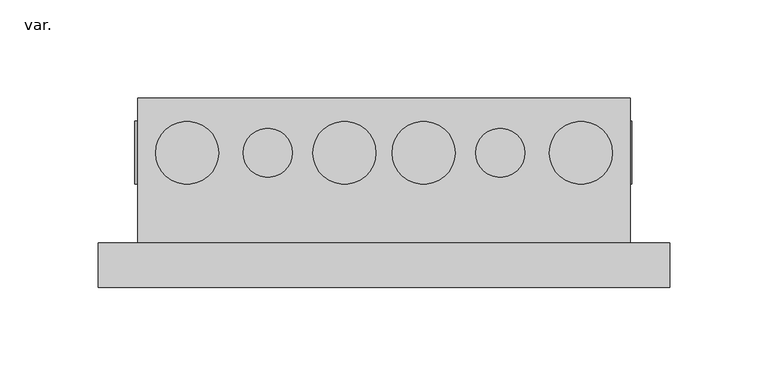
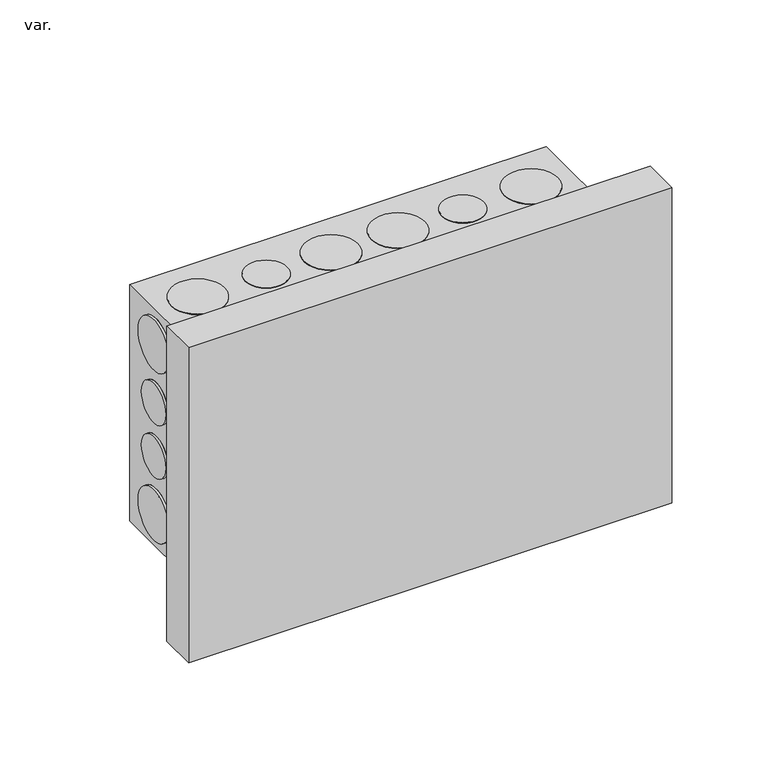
"""IFC4 building model written with IfcOpenShell, lengths in millimetres: pipe fitting geometry, AmancoWavin_ConexõesdoConduite_LinhaEletricaCorrugadoCuadroDistribucao8D : var.."""

from ifc_helpers import new_model, si_unit, frame, origin, place, context, project, spatial, polyline, circle_curve, source, transform, mapped, element, save
from ifc_brep_helpers import plane_surface, cylinder_surface, revolved_surface, advanced_brep


def var_e7d891e8(model_context):
    return source(origin(), model_context, "Body", "AdvancedBrep", [
        advanced_brep(
        [(145.0, 22.5, 100.0), (145.0, 22.5, -100.0), (-145.0, 22.5, -100.0), (-145.0, 22.5, 100.0), (125.0, 22.5, -75.0), (125.0, 22.5, 75.0), (-125.0, 22.5, 75.0), (-125.0, 22.5, -75.0), (145.0, 0.0, 100.0), (145.0, 0.0, -100.0), (-145.0, 0.0, -100.0), (-145.0, 0.0, 100.0), (125.0, 96.0, 75.0), (125.0, 96.0, -75.0), (-125.0, 96.0, -75.0), (-125.0, 96.0, 75.0), (-90.5, 96.0, 53.0), (-115.5, 96.0, 53.0), (-45.0, 96.0, 54.6498552), (-77.0, 96.0, 54.6498552), (90.5, 96.0, 53.0), (115.5, 96.0, 53.0), (45.0, 96.0, 54.6498552), (77.0, 96.0, 54.6498552), (-90.5, 96.0, -53.0), (-115.5, 96.0, -53.0), (-45.0, 96.0, -54.6498552), (-77.0, 96.0, -54.6498552), (90.5, 96.0, -53.0), (115.5, 96.0, -53.0), (45.0, 96.0, -54.6498552), (77.0, 96.0, -54.6498552), (125.0, 56.0, 17.0), (125.0, 81.0, 17.0), (125.0, 52.5, 54.0), (125.0, 84.5, 54.0), (125.0, 56.0, -17.0), (125.0, 81.0, -17.0), (125.0, 52.5, -54.0), (125.0, 84.5, -54.0), (-116.0, 68.3, -75.0), (-84.0, 68.3, -75.0), (-71.5, 68.3, -75.0), (-46.5, 68.3, -75.0), (-36.1, 68.3, -75.0), (-4.1, 68.3, -75.0), (116.0, 68.3, -75.0), (84.0, 68.3, -75.0), (71.5, 68.3, -75.0), (46.5, 68.3, -75.0), (36.1, 68.3, -75.0), (4.1, 68.3, -75.0), (-125.0, 81.0, 17.0), (-125.0, 56.0, 17.0), (-125.0, 84.5, 54.0), (-125.0, 52.5, 54.0), (-125.0, 81.0, -17.0), (-125.0, 56.0, -17.0), (-125.0, 84.5, -54.0), (-125.0, 52.5, -54.0), (-84.0, 68.3, 75.0), (-116.0, 68.3, 75.0), (-46.5, 68.3, 75.0), (-71.5, 68.3, 75.0), (-4.1, 68.3, 75.0), (-36.1, 68.3, 75.0), (84.0, 68.3, 75.0), (116.0, 68.3, 75.0), (46.5, 68.3, 75.0), (71.5, 68.3, 75.0), (4.1, 68.3, 75.0), (36.1, 68.3, 75.0), (-115.5, 95.0, 53.0), (-90.5, 95.0, 53.0), (-77.0, 95.0, 54.6498552), (-45.0, 95.0, 54.6498552), (115.5, 95.0, 53.0), (90.5, 95.0, 53.0), (77.0, 95.0, 54.6498552), (45.0, 95.0, 54.6498552), (-115.5, 95.0, -53.0), (-90.5, 95.0, -53.0), (-77.0, 95.0, -54.6498552), (-45.0, 95.0, -54.6498552), (115.5, 95.0, -53.0), (90.5, 95.0, -53.0), (77.0, 95.0, -54.6498552), (45.0, 95.0, -54.6498552), (-126.4779036, 56.0, 17.0), (-126.4779036, 81.0, 17.0), (-126.4779036, 52.5, 54.0), (-126.4779036, 84.5, 54.0), (-126.4779036, 56.0, -17.0), (-126.4779036, 81.0, -17.0), (-126.4779036, 52.5, -54.0), (-126.4779036, 84.5, -54.0), (125.9225103, 56.0, 17.0), (125.9225103, 81.0, 17.0), (125.9225103, 52.5, 54.0), (125.9225103, 84.5, 54.0), (125.9225103, 56.0, -17.0), (125.9225103, 81.0, -17.0), (125.9225103, 52.5, -54.0), (125.9225103, 84.5, -54.0), (-116.0, 68.3, 75.3532589), (-84.0, 68.3, 75.3532589), (-71.5, 68.3, 75.3532589), (-46.5, 68.3, 75.3532589), (-36.1, 68.3, 75.3532589), (-4.1, 68.3, 75.3532589), (116.0, 68.3, 75.3532589), (84.0, 68.3, 75.3532589), (71.5, 68.3, 75.3532589), (46.5, 68.3, 75.3532589), (36.1, 68.3, 75.3532589), (4.1, 68.3, 75.3532589), (-116.0, 68.3, -75.2845122), (-84.0, 68.3, -75.2845122), (-71.5, 68.3, -75.2845122), (-46.5, 68.3, -75.2845122), (-36.1, 68.3, -75.2845122), (-4.1, 68.3, -75.2845122), (116.0, 68.3, -75.2845122), (84.0, 68.3, -75.2845122), (71.5, 68.3, -75.2845122), (46.5, 68.3, -75.2845122), (36.1, 68.3, -75.2845122), (4.1, 68.3, -75.2845122)],
        [
            (0, 1),
            (1, 2),
            (2, 3),
            (3, 0),
            (4, 5),
            (5, 6),
            (6, 7),
            (7, 4),
            (0, 8),
            (8, 9),
            (9, 1),
            (9, 10),
            (10, 2),
            (10, 11),
            (11, 3),
            (11, 8),
            (12, 13),
            (13, 14),
            (14, 15),
            (15, 12),
            (16, 17, circle_curve(frame((-103.0, 96.0, 53.0), z_axis=(0.0, -1.0, 0.0), x_axis=(1.0, 0.0, 0.0)), 12.5)),
            (17, 16, circle_curve(frame((-103.0, 96.0, 53.0), z_axis=(0.0, -1.0, 0.0), x_axis=(1.0, 0.0, 0.0)), 12.5)),
            (18, 19, circle_curve(frame((-61.0, 96.0, 54.6498552), z_axis=(0.0, -1.0, 0.0), x_axis=(1.0, 0.0, 0.0)), 16.0)),
            (19, 18, circle_curve(frame((-61.0, 96.0, 54.6498552), z_axis=(0.0, -1.0, 0.0), x_axis=(1.0, 0.0, 0.0)), 16.0)),
            (20, 21, circle_curve(frame((103.0, 96.0, 53.0), z_axis=(0.0, -1.0, 0.0), x_axis=(-1.0, 0.0, 0.0)), 12.5)),
            (21, 20, circle_curve(frame((103.0, 96.0, 53.0), z_axis=(0.0, -1.0, 0.0), x_axis=(-1.0, 0.0, 0.0)), 12.5)),
            (22, 23, circle_curve(frame((61.0, 96.0, 54.6498552), z_axis=(0.0, -1.0, 0.0), x_axis=(-1.0, 0.0, 0.0)), 16.0)),
            (23, 22, circle_curve(frame((61.0, 96.0, 54.6498552), z_axis=(0.0, -1.0, 0.0), x_axis=(-1.0, 0.0, 0.0)), 16.0)),
            (24, 25, circle_curve(frame((-103.0, 96.0, -53.0), z_axis=(0.0, -1.0, 0.0), x_axis=(1.0, 0.0, 0.0)), 12.5)),
            (25, 24, circle_curve(frame((-103.0, 96.0, -53.0), z_axis=(0.0, -1.0, 0.0), x_axis=(1.0, 0.0, 0.0)), 12.5)),
            (26, 27, circle_curve(frame((-61.0, 96.0, -54.6498552), z_axis=(0.0, -1.0, 0.0), x_axis=(1.0, 0.0, 0.0)), 16.0)),
            (27, 26, circle_curve(frame((-61.0, 96.0, -54.6498552), z_axis=(0.0, -1.0, 0.0), x_axis=(1.0, 0.0, 0.0)), 16.0)),
            (28, 29, circle_curve(frame((103.0, 96.0, -53.0), z_axis=(0.0, -1.0, 0.0), x_axis=(-1.0, 0.0, 0.0)), 12.5)),
            (29, 28, circle_curve(frame((103.0, 96.0, -53.0), z_axis=(0.0, -1.0, 0.0), x_axis=(-1.0, 0.0, 0.0)), 12.5)),
            (30, 31, circle_curve(frame((61.0, 96.0, -54.6498552), z_axis=(0.0, -1.0, 0.0), x_axis=(-1.0, 0.0, 0.0)), 16.0)),
            (31, 30, circle_curve(frame((61.0, 96.0, -54.6498552), z_axis=(0.0, -1.0, 0.0), x_axis=(-1.0, 0.0, 0.0)), 16.0)),
            (12, 5),
            (4, 13),
            (32, 33, circle_curve(frame((125.0, 68.5, 17.0), z_axis=(-1.0, 0.0, 0.0), x_axis=(0.0, 1.0, 0.0)), 12.5)),
            (33, 32, circle_curve(frame((125.0, 68.5, 17.0), z_axis=(-1.0, 0.0, 0.0), x_axis=(0.0, 1.0, 0.0)), 12.5)),
            (34, 35, circle_curve(frame((125.0, 68.5, 54.0), z_axis=(-1.0, 0.0, 0.0), x_axis=(0.0, 1.0, 0.0)), 16.0)),
            (35, 34, circle_curve(frame((125.0, 68.5, 54.0), z_axis=(-1.0, 0.0, 0.0), x_axis=(0.0, 1.0, 0.0)), 16.0)),
            (36, 37, circle_curve(frame((125.0, 68.5, -17.0), z_axis=(-1.0, 0.0, 0.0), x_axis=(0.0, 1.0, 0.0)), 12.5)),
            (37, 36, circle_curve(frame((125.0, 68.5, -17.0), z_axis=(-1.0, 0.0, 0.0), x_axis=(0.0, 1.0, 0.0)), 12.5)),
            (38, 39, circle_curve(frame((125.0, 68.5, -54.0), z_axis=(-1.0, 0.0, 0.0), x_axis=(0.0, 1.0, 0.0)), 16.0)),
            (39, 38, circle_curve(frame((125.0, 68.5, -54.0), z_axis=(-1.0, 0.0, 0.0), x_axis=(0.0, 1.0, 0.0)), 16.0)),
            (7, 14),
            (40, 41, circle_curve(frame((-100.0, 68.3, -75.0), z_axis=(0.0, 0.0, 1.0), x_axis=(1.0, 0.0, 0.0)), 16.0)),
            (41, 40, circle_curve(frame((-100.0, 68.3, -75.0), z_axis=(0.0, 0.0, 1.0), x_axis=(1.0, 0.0, 0.0)), 16.0)),
            (42, 43, circle_curve(frame((-59.0, 68.3, -75.0), z_axis=(0.0, 0.0, 1.0), x_axis=(1.0, 0.0, 0.0)), 12.5)),
            (43, 42, circle_curve(frame((-59.0, 68.3, -75.0), z_axis=(0.0, 0.0, 1.0), x_axis=(1.0, 0.0, 0.0)), 12.5)),
            (44, 45, circle_curve(frame((-20.1, 68.3, -75.0), z_axis=(0.0, 0.0, 1.0), x_axis=(1.0, 0.0, 0.0)), 16.0)),
            (45, 44, circle_curve(frame((-20.1, 68.3, -75.0), z_axis=(0.0, 0.0, 1.0), x_axis=(1.0, 0.0, 0.0)), 16.0)),
            (46, 47, circle_curve(frame((100.0, 68.3, -75.0), z_axis=(0.0, 0.0, 1.0), x_axis=(-1.0, 0.0, 0.0)), 16.0)),
            (47, 46, circle_curve(frame((100.0, 68.3, -75.0), z_axis=(0.0, 0.0, 1.0), x_axis=(-1.0, 0.0, 0.0)), 16.0)),
            (48, 49, circle_curve(frame((59.0, 68.3, -75.0), z_axis=(0.0, 0.0, 1.0), x_axis=(-1.0, 0.0, 0.0)), 12.5)),
            (49, 48, circle_curve(frame((59.0, 68.3, -75.0), z_axis=(0.0, 0.0, 1.0), x_axis=(-1.0, 0.0, 0.0)), 12.5)),
            (50, 51, circle_curve(frame((20.1, 68.3, -75.0), z_axis=(0.0, 0.0, 1.0), x_axis=(-1.0, 0.0, 0.0)), 16.0)),
            (51, 50, circle_curve(frame((20.1, 68.3, -75.0), z_axis=(0.0, 0.0, 1.0), x_axis=(-1.0, 0.0, 0.0)), 16.0)),
            (6, 15),
            (52, 53, circle_curve(frame((-125.0, 68.5, 17.0), z_axis=(1.0, 0.0, 0.0), x_axis=(0.0, 1.0, 0.0)), 12.5)),
            (53, 52, circle_curve(frame((-125.0, 68.5, 17.0), z_axis=(1.0, 0.0, 0.0), x_axis=(0.0, 1.0, 0.0)), 12.5)),
            (54, 55, circle_curve(frame((-125.0, 68.5, 54.0), z_axis=(1.0, 0.0, 0.0), x_axis=(0.0, 1.0, 0.0)), 16.0)),
            (55, 54, circle_curve(frame((-125.0, 68.5, 54.0), z_axis=(1.0, 0.0, 0.0), x_axis=(0.0, 1.0, 0.0)), 16.0)),
            (56, 57, circle_curve(frame((-125.0, 68.5, -17.0), z_axis=(1.0, 0.0, 0.0), x_axis=(0.0, 1.0, 0.0)), 12.5)),
            (57, 56, circle_curve(frame((-125.0, 68.5, -17.0), z_axis=(1.0, 0.0, 0.0), x_axis=(0.0, 1.0, 0.0)), 12.5)),
            (58, 59, circle_curve(frame((-125.0, 68.5, -54.0), z_axis=(1.0, 0.0, 0.0), x_axis=(0.0, 1.0, 0.0)), 16.0)),
            (59, 58, circle_curve(frame((-125.0, 68.5, -54.0), z_axis=(1.0, 0.0, 0.0), x_axis=(0.0, 1.0, 0.0)), 16.0)),
            (60, 61, circle_curve(frame((-100.0, 68.3, 75.0), z_axis=(0.0, 0.0, -1.0), x_axis=(1.0, 0.0, 0.0)), 16.0)),
            (61, 60, circle_curve(frame((-100.0, 68.3, 75.0), z_axis=(0.0, 0.0, -1.0), x_axis=(1.0, 0.0, 0.0)), 16.0)),
            (62, 63, circle_curve(frame((-59.0, 68.3, 75.0), z_axis=(0.0, 0.0, -1.0), x_axis=(1.0, 0.0, 0.0)), 12.5)),
            (63, 62, circle_curve(frame((-59.0, 68.3, 75.0), z_axis=(0.0, 0.0, -1.0), x_axis=(1.0, 0.0, 0.0)), 12.5)),
            (64, 65, circle_curve(frame((-20.1, 68.3, 75.0), z_axis=(0.0, 0.0, -1.0), x_axis=(1.0, 0.0, 0.0)), 16.0)),
            (65, 64, circle_curve(frame((-20.1, 68.3, 75.0), z_axis=(0.0, 0.0, -1.0), x_axis=(1.0, 0.0, 0.0)), 16.0)),
            (66, 67, circle_curve(frame((100.0, 68.3, 75.0), z_axis=(0.0, 0.0, -1.0), x_axis=(-1.0, 0.0, 0.0)), 16.0)),
            (67, 66, circle_curve(frame((100.0, 68.3, 75.0), z_axis=(0.0, 0.0, -1.0), x_axis=(-1.0, 0.0, 0.0)), 16.0)),
            (68, 69, circle_curve(frame((59.0, 68.3, 75.0), z_axis=(0.0, 0.0, -1.0), x_axis=(-1.0, 0.0, 0.0)), 12.5)),
            (69, 68, circle_curve(frame((59.0, 68.3, 75.0), z_axis=(0.0, 0.0, -1.0), x_axis=(-1.0, 0.0, 0.0)), 12.5)),
            (70, 71, circle_curve(frame((20.1, 68.3, 75.0), z_axis=(0.0, 0.0, -1.0), x_axis=(-1.0, 0.0, 0.0)), 16.0)),
            (71, 70, circle_curve(frame((20.1, 68.3, 75.0), z_axis=(0.0, 0.0, -1.0), x_axis=(-1.0, 0.0, 0.0)), 16.0)),
            (72, 73, circle_curve(frame((-103.0, 95.0, 53.0), z_axis=(0.0, 1.0, 0.0), x_axis=(1.0, 0.0, 0.0)), 12.5)),
            (73, 72, circle_curve(frame((-103.0, 95.0, 53.0), z_axis=(0.0, 1.0, 0.0), x_axis=(1.0, 0.0, 0.0)), 12.5)),
            (74, 75, circle_curve(frame((-61.0, 95.0, 54.6498552), z_axis=(0.0, 1.0, 0.0), x_axis=(1.0, 0.0, 0.0)), 16.0)),
            (75, 74, circle_curve(frame((-61.0, 95.0, 54.6498552), z_axis=(0.0, 1.0, 0.0), x_axis=(1.0, 0.0, 0.0)), 16.0)),
            (76, 77, circle_curve(frame((103.0, 95.0, 53.0), z_axis=(0.0, 1.0, 0.0), x_axis=(-1.0, 0.0, 0.0)), 12.5)),
            (77, 76, circle_curve(frame((103.0, 95.0, 53.0), z_axis=(0.0, 1.0, 0.0), x_axis=(-1.0, 0.0, 0.0)), 12.5)),
            (78, 79, circle_curve(frame((61.0, 95.0, 54.6498552), z_axis=(0.0, 1.0, 0.0), x_axis=(-1.0, 0.0, 0.0)), 16.0)),
            (79, 78, circle_curve(frame((61.0, 95.0, 54.6498552), z_axis=(0.0, 1.0, 0.0), x_axis=(-1.0, 0.0, 0.0)), 16.0)),
            (80, 81, circle_curve(frame((-103.0, 95.0, -53.0), z_axis=(0.0, 1.0, 0.0), x_axis=(1.0, 0.0, 0.0)), 12.5)),
            (81, 80, circle_curve(frame((-103.0, 95.0, -53.0), z_axis=(0.0, 1.0, 0.0), x_axis=(1.0, 0.0, 0.0)), 12.5)),
            (82, 83, circle_curve(frame((-61.0, 95.0, -54.6498552), z_axis=(0.0, 1.0, 0.0), x_axis=(1.0, 0.0, 0.0)), 16.0)),
            (83, 82, circle_curve(frame((-61.0, 95.0, -54.6498552), z_axis=(0.0, 1.0, 0.0), x_axis=(1.0, 0.0, 0.0)), 16.0)),
            (84, 85, circle_curve(frame((103.0, 95.0, -53.0), z_axis=(0.0, 1.0, 0.0), x_axis=(-1.0, 0.0, 0.0)), 12.5)),
            (85, 84, circle_curve(frame((103.0, 95.0, -53.0), z_axis=(0.0, 1.0, 0.0), x_axis=(-1.0, 0.0, 0.0)), 12.5)),
            (86, 87, circle_curve(frame((61.0, 95.0, -54.6498552), z_axis=(0.0, 1.0, 0.0), x_axis=(-1.0, 0.0, 0.0)), 16.0)),
            (87, 86, circle_curve(frame((61.0, 95.0, -54.6498552), z_axis=(0.0, 1.0, 0.0), x_axis=(-1.0, 0.0, 0.0)), 16.0)),
            (72, 17),
            (16, 73),
            (74, 19),
            (18, 75),
            (88, 89, circle_curve(frame((-126.4779036, 68.5, 17.0), z_axis=(-1.0, 0.0, 0.0), x_axis=(0.0, 1.0, 0.0)), 12.5)),
            (89, 88, circle_curve(frame((-126.4779036, 68.5, 17.0), z_axis=(-1.0, 0.0, 0.0), x_axis=(0.0, 1.0, 0.0)), 12.5)),
            (90, 91, circle_curve(frame((-126.4779036, 68.5, 54.0), z_axis=(-1.0, 0.0, 0.0), x_axis=(0.0, 1.0, 0.0)), 16.0)),
            (91, 90, circle_curve(frame((-126.4779036, 68.5, 54.0), z_axis=(-1.0, 0.0, 0.0), x_axis=(0.0, 1.0, 0.0)), 16.0)),
            (92, 93, circle_curve(frame((-126.4779036, 68.5, -17.0), z_axis=(-1.0, 0.0, 0.0), x_axis=(0.0, 1.0, 0.0)), 12.5)),
            (93, 92, circle_curve(frame((-126.4779036, 68.5, -17.0), z_axis=(-1.0, 0.0, 0.0), x_axis=(0.0, 1.0, 0.0)), 12.5)),
            (94, 95, circle_curve(frame((-126.4779036, 68.5, -54.0), z_axis=(-1.0, 0.0, 0.0), x_axis=(0.0, 1.0, 0.0)), 16.0)),
            (95, 94, circle_curve(frame((-126.4779036, 68.5, -54.0), z_axis=(-1.0, 0.0, 0.0), x_axis=(0.0, 1.0, 0.0)), 16.0)),
            (96, 97, circle_curve(frame((125.9225103, 68.5, 17.0), z_axis=(1.0, 0.0, 0.0), x_axis=(0.0, 1.0, 0.0)), 12.5)),
            (97, 96, circle_curve(frame((125.9225103, 68.5, 17.0), z_axis=(1.0, 0.0, 0.0), x_axis=(0.0, 1.0, 0.0)), 12.5)),
            (98, 99, circle_curve(frame((125.9225103, 68.5, 54.0), z_axis=(1.0, 0.0, 0.0), x_axis=(0.0, 1.0, 0.0)), 16.0)),
            (99, 98, circle_curve(frame((125.9225103, 68.5, 54.0), z_axis=(1.0, 0.0, 0.0), x_axis=(0.0, 1.0, 0.0)), 16.0)),
            (100, 101, circle_curve(frame((125.9225103, 68.5, -17.0), z_axis=(1.0, 0.0, 0.0), x_axis=(0.0, 1.0, 0.0)), 12.5)),
            (101, 100, circle_curve(frame((125.9225103, 68.5, -17.0), z_axis=(1.0, 0.0, 0.0), x_axis=(0.0, 1.0, 0.0)), 12.5)),
            (102, 103, circle_curve(frame((125.9225103, 68.5, -54.0), z_axis=(1.0, 0.0, 0.0), x_axis=(0.0, 1.0, 0.0)), 16.0)),
            (103, 102, circle_curve(frame((125.9225103, 68.5, -54.0), z_axis=(1.0, 0.0, 0.0), x_axis=(0.0, 1.0, 0.0)), 16.0)),
            (88, 53),
            (52, 89),
            (97, 33),
            (32, 96),
            (90, 55),
            (54, 91),
            (99, 35),
            (34, 98),
            (104, 105, circle_curve(frame((-100.0, 68.3, 75.3532589), z_axis=(0.0, 0.0, 1.0), x_axis=(1.0, 0.0, 0.0)), 16.0)),
            (105, 104, circle_curve(frame((-100.0, 68.3, 75.3532589), z_axis=(0.0, 0.0, 1.0), x_axis=(1.0, 0.0, 0.0)), 16.0)),
            (106, 107, circle_curve(frame((-59.0, 68.3, 75.3532589), z_axis=(0.0, 0.0, 1.0), x_axis=(1.0, 0.0, 0.0)), 12.5)),
            (107, 106, circle_curve(frame((-59.0, 68.3, 75.3532589), z_axis=(0.0, 0.0, 1.0), x_axis=(1.0, 0.0, 0.0)), 12.5)),
            (108, 109, circle_curve(frame((-20.1, 68.3, 75.3532589), z_axis=(0.0, 0.0, 1.0), x_axis=(1.0, 0.0, 0.0)), 16.0)),
            (109, 108, circle_curve(frame((-20.1, 68.3, 75.3532589), z_axis=(0.0, 0.0, 1.0), x_axis=(1.0, 0.0, 0.0)), 16.0)),
            (110, 111, circle_curve(frame((100.0, 68.3, 75.3532589), z_axis=(0.0, 0.0, 1.0), x_axis=(-1.0, 0.0, 0.0)), 16.0)),
            (111, 110, circle_curve(frame((100.0, 68.3, 75.3532589), z_axis=(0.0, 0.0, 1.0), x_axis=(-1.0, 0.0, 0.0)), 16.0)),
            (112, 113, circle_curve(frame((59.0, 68.3, 75.3532589), z_axis=(0.0, 0.0, 1.0), x_axis=(-1.0, 0.0, 0.0)), 12.5)),
            (113, 112, circle_curve(frame((59.0, 68.3, 75.3532589), z_axis=(0.0, 0.0, 1.0), x_axis=(-1.0, 0.0, 0.0)), 12.5)),
            (114, 115, circle_curve(frame((20.1, 68.3, 75.3532589), z_axis=(0.0, 0.0, 1.0), x_axis=(-1.0, 0.0, 0.0)), 16.0)),
            (115, 114, circle_curve(frame((20.1, 68.3, 75.3532589), z_axis=(0.0, 0.0, 1.0), x_axis=(-1.0, 0.0, 0.0)), 16.0)),
            (116, 117, circle_curve(frame((-100.0, 68.3, -75.2845122), z_axis=(0.0, 0.0, -1.0), x_axis=(1.0, 0.0, 0.0)), 16.0)),
            (117, 116, circle_curve(frame((-100.0, 68.3, -75.2845122), z_axis=(0.0, 0.0, -1.0), x_axis=(1.0, 0.0, 0.0)), 16.0)),
            (118, 119, circle_curve(frame((-59.0, 68.3, -75.2845122), z_axis=(0.0, 0.0, -1.0), x_axis=(1.0, 0.0, 0.0)), 12.5)),
            (119, 118, circle_curve(frame((-59.0, 68.3, -75.2845122), z_axis=(0.0, 0.0, -1.0), x_axis=(1.0, 0.0, 0.0)), 12.5)),
            (120, 121, circle_curve(frame((-20.1, 68.3, -75.2845122), z_axis=(0.0, 0.0, -1.0), x_axis=(1.0, 0.0, 0.0)), 16.0)),
            (121, 120, circle_curve(frame((-20.1, 68.3, -75.2845122), z_axis=(0.0, 0.0, -1.0), x_axis=(1.0, 0.0, 0.0)), 16.0)),
            (122, 123, circle_curve(frame((100.0, 68.3, -75.2845122), z_axis=(0.0, 0.0, -1.0), x_axis=(-1.0, 0.0, 0.0)), 16.0)),
            (123, 122, circle_curve(frame((100.0, 68.3, -75.2845122), z_axis=(0.0, 0.0, -1.0), x_axis=(-1.0, 0.0, 0.0)), 16.0)),
            (124, 125, circle_curve(frame((59.0, 68.3, -75.2845122), z_axis=(0.0, 0.0, -1.0), x_axis=(-1.0, 0.0, 0.0)), 12.5)),
            (125, 124, circle_curve(frame((59.0, 68.3, -75.2845122), z_axis=(0.0, 0.0, -1.0), x_axis=(-1.0, 0.0, 0.0)), 12.5)),
            (126, 127, circle_curve(frame((20.1, 68.3, -75.2845122), z_axis=(0.0, 0.0, -1.0), x_axis=(-1.0, 0.0, 0.0)), 16.0)),
            (127, 126, circle_curve(frame((20.1, 68.3, -75.2845122), z_axis=(0.0, 0.0, -1.0), x_axis=(-1.0, 0.0, 0.0)), 16.0)),
            (104, 61),
            (60, 105),
            (117, 41),
            (40, 116),
            (106, 63),
            (62, 107),
            (119, 43),
            (42, 118),
            (108, 65),
            (64, 109),
            (121, 45),
            (44, 120),
            (92, 57),
            (56, 93),
            (101, 37),
            (36, 100),
            (94, 59),
            (58, 95),
            (103, 39),
            (38, 102),
            (76, 21),
            (20, 77),
            (78, 23),
            (22, 79),
            (80, 25),
            (24, 81),
            (82, 27),
            (26, 83),
            (84, 29),
            (28, 85),
            (86, 31),
            (30, 87),
            (110, 67),
            (66, 111),
            (123, 47),
            (46, 122),
            (112, 69),
            (68, 113),
            (125, 49),
            (48, 124),
            (114, 71),
            (70, 115),
            (127, 51),
            (50, 126),
        ],
        [
            plane_surface(frame((145.0, 22.5, 200.5423623), z_axis=(0.0, 1.0, 0.0), x_axis=(0.0, 0.0, -1.0))),
            plane_surface(frame((145.0, 22.5, 100.0), z_axis=(1.0, 0.0, 0.0), x_axis=(0.0, -1.0, 0.0))),
            plane_surface(frame((145.0, 22.5, -100.0), z_axis=(0.0, 0.0, -1.0), x_axis=(0.0, -1.0, 0.0))),
            plane_surface(frame((-145.0, 22.5, -100.0), z_axis=(-1.0, 0.0, 0.0), x_axis=(0.0, -1.0, 0.0))),
            plane_surface(frame((-145.0, 22.5, 100.0), z_axis=(0.0, 0.0, 1.0), x_axis=(0.0, -1.0, 0.0))),
            plane_surface(frame((125.0, 96.0, 132.4195146), z_axis=(0.0, 1.0, 0.0), x_axis=(0.0, 0.0, -1.0))),
            plane_surface(frame((125.0, 0.0, 132.4195146), z_axis=(0.0, -1.0, 0.0), x_axis=(0.0, 0.0, 1.0))),
            plane_surface(frame((125.0, 96.0, 75.0), z_axis=(1.0, 0.0, 0.0), x_axis=(0.0, -1.0, 0.0))),
            plane_surface(frame((125.0, 96.0, -75.0), z_axis=(0.0, 0.0, -1.0), x_axis=(0.0, -1.0, 0.0))),
            plane_surface(frame((-125.0, 96.0, -75.0), z_axis=(-1.0, 0.0, 0.0), x_axis=(0.0, -1.0, 0.0))),
            plane_surface(frame((-125.0, 96.0, 75.0), z_axis=(0.0, 0.0, 1.0), x_axis=(0.0, -1.0, 0.0))),
            plane_surface(frame((-90.5, 95.0, 53.0), z_axis=(0.0, 1.0, 0.0), x_axis=(0.0, 0.0, 1.0))),
            revolved_surface(polyline([(-90.5, 96.0, 53.0), (-90.5, 95.0, 53.0)]), (-103.0, 95.0, 53.0), (0.0, 1.0, 0.0)),
            revolved_surface(polyline([(-45.0, 96.0, 54.6498552), (-45.0, 95.0, 54.6498552)]), (-61.0, 0.0, 54.6498552), (0.0, 1.0, 0.0)),
            plane_surface(frame((-126.4779036, 81.0, 17.0), z_axis=(-1.0, 0.0, 0.0), x_axis=(0.0, 0.0, -1.0))),
            plane_surface(frame((125.9225103, 81.0, 17.0), z_axis=(1.0, 0.0, 0.0), x_axis=(0.0, 0.0, 1.0))),
            cylinder_surface(frame((125.9225103, 68.5, 17.0), z_axis=(-1.0, 0.0, 0.0), x_axis=(0.0, 1.0, 0.0)), 12.5),
            cylinder_surface(frame((0.0, 68.5, 54.0), z_axis=(-1.0, 0.0, 0.0), x_axis=(0.0, 1.0, 0.0)), 16.0),
            plane_surface(frame((-84.0, 68.3, 75.3532589), z_axis=(0.0, 0.0, 1.0), x_axis=(0.0, 1.0, 0.0))),
            plane_surface(frame((-84.0, 68.3, -75.2845122), z_axis=(0.0, 0.0, -1.0), x_axis=(0.0, -1.0, 0.0))),
            cylinder_surface(frame((-100.0, 68.3, -75.2845122), z_axis=(0.0, 0.0, 1.0), x_axis=(1.0, 0.0, 0.0)), 16.0),
            cylinder_surface(frame((-59.0, 68.3, 0.0), z_axis=(0.0, 0.0, 1.0), x_axis=(1.0, 0.0, 0.0)), 12.5),
            cylinder_surface(frame((-20.1, 68.3, 0.0), z_axis=(0.0, 0.0, 1.0), x_axis=(1.0, 0.0, 0.0)), 16.0),
            cylinder_surface(frame((0.0, 68.5, -17.0), z_axis=(-1.0, 0.0, 0.0), x_axis=(0.0, 1.0, 0.0)), 12.5),
            cylinder_surface(frame((0.0, 68.5, -54.0), z_axis=(-1.0, 0.0, 0.0), x_axis=(0.0, 1.0, 0.0)), 16.0),
            revolved_surface(polyline([(90.5, 96.0, 53.0), (90.5, 95.0, 53.0)]), (103.0, 0.0, 53.0), (0.0, 1.0, 0.0)),
            revolved_surface(polyline([(45.0, 96.0, 54.6498552), (45.0, 95.0, 54.6498552)]), (61.0, 0.0, 54.6498552), (0.0, 1.0, 0.0)),
            revolved_surface(polyline([(-90.5, 96.0, -53.0), (-90.5, 95.0, -53.0)]), (-103.0, 0.0, -53.0), (0.0, 1.0, 0.0)),
            revolved_surface(polyline([(-45.0, 96.0, -54.6498552), (-45.0, 95.0, -54.6498552)]), (-61.0, 0.0, -54.6498552), (0.0, 1.0, 0.0)),
            revolved_surface(polyline([(90.5, 96.0, -53.0), (90.5, 95.0, -53.0)]), (103.0, 0.0, -53.0), (0.0, 1.0, 0.0)),
            revolved_surface(polyline([(45.0, 96.0, -54.6498552), (45.0, 95.0, -54.6498552)]), (61.0, 0.0, -54.6498552), (0.0, 1.0, 0.0)),
            cylinder_surface(frame((100.0, 68.3, 0.0), z_axis=(0.0, 0.0, 1.0), x_axis=(-1.0, 0.0, 0.0)), 16.0),
            cylinder_surface(frame((59.0, 68.3, 0.0), z_axis=(0.0, 0.0, 1.0), x_axis=(-1.0, 0.0, 0.0)), 12.5),
            cylinder_surface(frame((20.1, 68.3, 0.0), z_axis=(0.0, 0.0, 1.0), x_axis=(-1.0, 0.0, 0.0)), 16.0),
        ],
        [
            (0, [[1, 2, 3, 4], [5, 6, 7, 8]]),
            (1, [[-1, 9, 10, 11]]),
            (2, [[-2, -11, 12, 13]]),
            (3, [[-3, -13, 14, 15]]),
            (4, [[-4, -15, 16, -9]]),
            (5, [[17, 18, 19, 20], [21, 22], [23, 24], [25, 26], [27, 28], [29, 30], [31, 32], [33, 34], [35, 36]]),
            (6, [[-16, -14, -12, -10]]),
            (7, [[-17, 37, -5, 38], [39, 40], [41, 42], [43, 44], [45, 46]]),
            (8, [[-18, -38, -8, 47], [48, 49], [50, 51], [52, 53], [54, 55], [56, 57], [58, 59]]),
            (9, [[-19, -47, -7, 60], [61, 62], [63, 64], [65, 66], [67, 68]]),
            (10, [[-20, -60, -6, -37], [69, 70], [71, 72], [73, 74], [75, 76], [77, 78], [79, 80]]),
            (11, [[81, 82]]),
            (11, [[83, 84]]),
            (11, [[85, 86]]),
            (11, [[87, 88]]),
            (11, [[89, 90]]),
            (11, [[91, 92]]),
            (11, [[93, 94]]),
            (11, [[95, 96]]),
            (12, [[-81, 97, -21, 98]]),
            (12, [[-82, -98, -22, -97]]),
            (13, [[-83, 99, -23, 100]]),
            (13, [[-84, -100, -24, -99]]),
            (14, [[101, 102]]),
            (14, [[103, 104]]),
            (14, [[105, 106]]),
            (14, [[107, 108]]),
            (15, [[109, 110]]),
            (15, [[111, 112]]),
            (15, [[113, 114]]),
            (15, [[115, 116]]),
            (16, [[-101, 117, -61, 118]]),
            (16, [[-110, 119, -39, 120]]),
            (16, [[-102, -118, -62, -117]]),
            (16, [[-109, -120, -40, -119]]),
            (17, [[-103, 121, -63, 122]]),
            (17, [[-112, 123, -41, 124]]),
            (17, [[-104, -122, -64, -121]]),
            (17, [[-111, -124, -42, -123]]),
            (18, [[125, 126]]),
            (18, [[127, 128]]),
            (18, [[129, 130]]),
            (18, [[131, 132]]),
            (18, [[133, 134]]),
            (18, [[135, 136]]),
            (19, [[137, 138]]),
            (19, [[139, 140]]),
            (19, [[141, 142]]),
            (19, [[143, 144]]),
            (19, [[145, 146]]),
            (19, [[147, 148]]),
            (20, [[-125, 149, -69, 150]]),
            (20, [[-138, 151, -48, 152]]),
            (20, [[-126, -150, -70, -149]]),
            (20, [[-137, -152, -49, -151]]),
            (21, [[-127, 153, -71, 154]]),
            (21, [[-140, 155, -50, 156]]),
            (21, [[-128, -154, -72, -153]]),
            (21, [[-139, -156, -51, -155]]),
            (22, [[-129, 157, -73, 158]]),
            (22, [[-142, 159, -52, 160]]),
            (22, [[-130, -158, -74, -157]]),
            (22, [[-141, -160, -53, -159]]),
            (23, [[-105, 161, -65, 162]]),
            (23, [[-114, 163, -43, 164]]),
            (23, [[-106, -162, -66, -161]]),
            (23, [[-113, -164, -44, -163]]),
            (24, [[-107, 165, -67, 166]]),
            (24, [[-116, 167, -45, 168]]),
            (24, [[-108, -166, -68, -165]]),
            (24, [[-115, -168, -46, -167]]),
            (25, [[-85, 169, -25, 170]]),
            (25, [[-86, -170, -26, -169]]),
            (26, [[-87, 171, -27, 172]]),
            (26, [[-88, -172, -28, -171]]),
            (27, [[-89, 173, -29, 174]]),
            (27, [[-90, -174, -30, -173]]),
            (28, [[-91, 175, -31, 176]]),
            (28, [[-92, -176, -32, -175]]),
            (29, [[-93, 177, -33, 178]]),
            (29, [[-94, -178, -34, -177]]),
            (30, [[-95, 179, -35, 180]]),
            (30, [[-96, -180, -36, -179]]),
            (31, [[-131, 181, -75, 182]]),
            (31, [[-144, 183, -54, 184]]),
            (31, [[-132, -182, -76, -181]]),
            (31, [[-143, -184, -55, -183]]),
            (32, [[-133, 185, -77, 186]]),
            (32, [[-146, 187, -56, 188]]),
            (32, [[-134, -186, -78, -185]]),
            (32, [[-145, -188, -57, -187]]),
            (33, [[-135, 189, -79, 190]]),
            (33, [[-148, 191, -58, 192]]),
            (33, [[-136, -190, -80, -189]]),
            (33, [[-147, -192, -59, -191]]),
        ],
    ),
    ])


if __name__ == "__main__":
    model = new_model("IFC4")
    model_context = context("Model", 3, world=origin())
    ifc_project = project(units=[si_unit("LENGTHUNIT", "METRE", prefix="MILLI")], contexts=[model_context])
    site = spatial("IfcSite", under=ifc_project)
    building = spatial("IfcBuilding", under=site)
    placement = place(None, origin())
    var_shape = var_e7d891e8(model_context)
    element("IfcPipeFitting", 1, ObjectType="AmancoWavin_ConexõesdoConduite_LinhaEletricaCorrugadoCuadroDistribucao8D : var.", at=placement, inside=building, context=model_context, shape_type="MappedRepresentation", body=[
        mapped(var_shape, transform((0.0, 0.0, 0.0), x_axis=(1.0, 0.0, 0.0), y_axis=(0.0, 1.0, 0.0), z_axis=(0.0, 0.0, 1.0))),
    ])
    save(model, "model.ifc")
